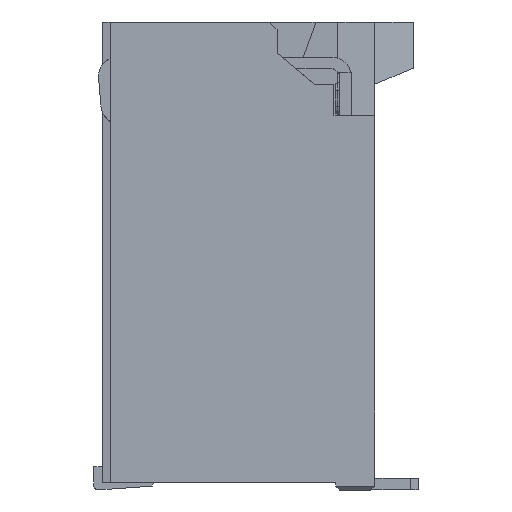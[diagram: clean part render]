
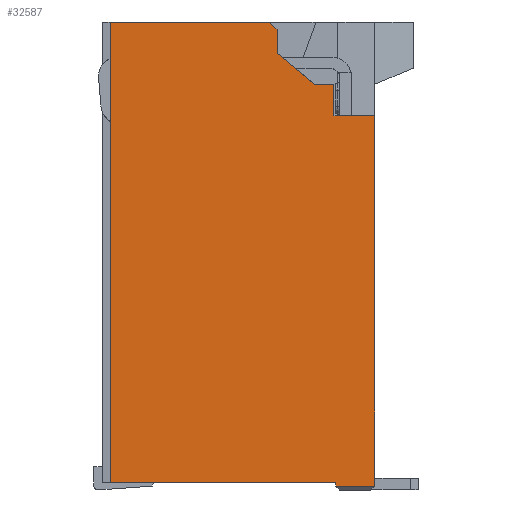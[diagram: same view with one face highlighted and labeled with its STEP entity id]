
A CAD part, front view. The second image highlights one B-rep face of the part: STEP entity #32587.
In plain terms, the highlighted planar face has unit normal (0, -1, 0).
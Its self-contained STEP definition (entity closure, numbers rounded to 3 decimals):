
#184 = ORIENTED_EDGE ( 'NONE', *, *, #6288, .F. ) ;
#232 = VECTOR ( 'NONE', #22023, 1000. ) ;
#341 = LINE ( 'NONE', #2811, #14062 ) ;
#757 = CARTESIAN_POINT ( 'NONE',  ( 3.02, -14.95, 2.35 ) ) ;
#1313 = CARTESIAN_POINT ( 'NONE',  ( 3.54, -14.95, 2.15 ) ) ;
#1408 = DIRECTION ( 'NONE',  ( 0., 0., 1. ) ) ;
#1443 = DIRECTION ( 'NONE',  ( 0., 0., 1. ) ) ;
#1515 = EDGE_CURVE ( 'NONE', #15297, #24669, #19228, .T. ) ;
#1516 = CARTESIAN_POINT ( 'NONE',  ( 0.15, -14.95, 0.4 ) ) ;
#2285 = VERTEX_POINT ( 'NONE', #32026 ) ;
#2577 = DIRECTION ( 'NONE',  ( 0., 1., 0. ) ) ;
#2811 = CARTESIAN_POINT ( 'NONE',  ( 1.595, -14.95, -2.55 ) ) ;
#3234 = EDGE_CURVE ( 'NONE', #7974, #14277, #12568, .T. ) ;
#3261 = CARTESIAN_POINT ( 'NONE',  ( 0.15, -14.95, -2.55 ) ) ;
#3694 = VERTEX_POINT ( 'NONE', #5627 ) ;
#3695 = CARTESIAN_POINT ( 'NONE',  ( 2.24, -14.95, 3.3 ) ) ;
#5627 = CARTESIAN_POINT ( 'NONE',  ( 0.15, -14.95, 3.35 ) ) ;
#5716 = EDGE_CURVE ( 'NONE', #15297, #10564, #13490, .T. ) ;
#5881 = DIRECTION ( 'NONE',  ( 0., 0., -1. ) ) ;
#6256 = VECTOR ( 'NONE', #29498, 1000. ) ;
#6288 = EDGE_CURVE ( 'NONE', #3694, #18091, #6650, .T. ) ;
#6650 = LINE ( 'NONE', #19397, #6256 ) ;
#7730 = CARTESIAN_POINT ( 'NONE',  ( 2.29, -14.95, 3.1 ) ) ;
#7974 = VERTEX_POINT ( 'NONE', #18995 ) ;
#8372 = LINE ( 'NONE', #28574, #32466 ) ;
#8831 = EDGE_CURVE ( 'NONE', #18091, #12149, #13452, .T. ) ;
#9268 = DIRECTION ( 'NONE',  ( -1., 0., 0. ) ) ;
#9305 = VERTEX_POINT ( 'NONE', #22132 ) ;
#10419 = DIRECTION ( 'NONE',  ( 1., 0., 0. ) ) ;
#10509 = EDGE_CURVE ( 'NONE', #2285, #9305, #14239, .T. ) ;
#10564 = VERTEX_POINT ( 'NONE', #24022 ) ;
#10856 = ORIENTED_EDGE ( 'NONE', *, *, #1515, .F. ) ;
#11059 = ORIENTED_EDGE ( 'NONE', *, *, #5716, .T. ) ;
#11364 = CARTESIAN_POINT ( 'NONE',  ( 3.54, -14.95, -0.225 ) ) ;
#12021 = ORIENTED_EDGE ( 'NONE', *, *, #22412, .F. ) ;
#12111 = ORIENTED_EDGE ( 'NONE', *, *, #19896, .T. ) ;
#12149 = VERTEX_POINT ( 'NONE', #16696 ) ;
#12568 = LINE ( 'NONE', #22666, #15328 ) ;
#13202 = ORIENTED_EDGE ( 'NONE', *, *, #28423, .T. ) ;
#13452 = LINE ( 'NONE', #3695, #32297 ) ;
#13490 = LINE ( 'NONE', #757, #19756 ) ;
#13612 = CARTESIAN_POINT ( 'NONE',  ( 3.28, -14.95, 2.15 ) ) ;
#13925 = LINE ( 'NONE', #1516, #17035 ) ;
#14062 = VECTOR ( 'NONE', #10419, 1000. ) ;
#14239 = LINE ( 'NONE', #16727, #16839 ) ;
#14277 = VERTEX_POINT ( 'NONE', #20243 ) ;
#15297 = VERTEX_POINT ( 'NONE', #18146 ) ;
#15328 = VECTOR ( 'NONE', #32771, 1000. ) ;
#15537 = VECTOR ( 'NONE', #5881, 1000. ) ;
#15669 = VERTEX_POINT ( 'NONE', #23357 ) ;
#16677 = ORIENTED_EDGE ( 'NONE', *, *, #10509, .F. ) ;
#16696 = CARTESIAN_POINT ( 'NONE',  ( 2.29, -14.95, 3.25 ) ) ;
#16727 = CARTESIAN_POINT ( 'NONE',  ( 3.29, -14.95, -2.6 ) ) ;
#16839 = VECTOR ( 'NONE', #9268, 1000. ) ;
#17035 = VECTOR ( 'NONE', #19214, 1000. ) ;
#17232 = LINE ( 'NONE', #27154, #232 ) ;
#17638 = CARTESIAN_POINT ( 'NONE',  ( 0., -14.95, 0. ) ) ;
#18091 = VERTEX_POINT ( 'NONE', #28550 ) ;
#18146 = CARTESIAN_POINT ( 'NONE',  ( 3.02, -14.95, 2.15 ) ) ;
#18318 = LINE ( 'NONE', #7730, #15537 ) ;
#18831 = LINE ( 'NONE', #11364, #24531 ) ;
#18927 = ORIENTED_EDGE ( 'NONE', *, *, #30520, .F. ) ;
#18995 = CARTESIAN_POINT ( 'NONE',  ( 2.29, -14.95, 2.95 ) ) ;
#19214 = DIRECTION ( 'NONE',  ( 0., 0., -1. ) ) ;
#19228 = LINE ( 'NONE', #13612, #30719 ) ;
#19397 = CARTESIAN_POINT ( 'NONE',  ( 1.17, -14.95, 3.35 ) ) ;
#19756 = VECTOR ( 'NONE', #1408, 1000. ) ;
#19896 = EDGE_CURVE ( 'NONE', #20294, #15669, #341, .T. ) ;
#20243 = CARTESIAN_POINT ( 'NONE',  ( 2.77, -14.95, 2.55 ) ) ;
#20294 = VERTEX_POINT ( 'NONE', #3261 ) ;
#22023 = DIRECTION ( 'NONE',  ( 0., 0., 1. ) ) ;
#22128 = ORIENTED_EDGE ( 'NONE', *, *, #22492, .F. ) ;
#22132 = CARTESIAN_POINT ( 'NONE',  ( 3.04, -14.95, -2.6 ) ) ;
#22412 = EDGE_CURVE ( 'NONE', #12149, #7974, #18318, .T. ) ;
#22492 = EDGE_CURVE ( 'NONE', #14277, #10564, #8372, .T. ) ;
#22666 = CARTESIAN_POINT ( 'NONE',  ( 2.53, -14.95, 2.75 ) ) ;
#23357 = CARTESIAN_POINT ( 'NONE',  ( 3.04, -14.95, -2.55 ) ) ;
#23714 = DIRECTION ( 'NONE',  ( 1., 0., 0. ) ) ;
#23881 = DIRECTION ( 'NONE',  ( 0.707, 0., -0.707 ) ) ;
#24022 = CARTESIAN_POINT ( 'NONE',  ( 3.02, -14.95, 2.55 ) ) ;
#24531 = VECTOR ( 'NONE', #1443, 1000. ) ;
#24669 = VERTEX_POINT ( 'NONE', #1313 ) ;
#25408 = PLANE ( 'NONE',  #28651 ) ;
#25597 = DIRECTION ( 'NONE',  ( 1., 0., 0. ) ) ;
#25844 = ORIENTED_EDGE ( 'NONE', *, *, #8831, .F. ) ;
#26440 = EDGE_CURVE ( 'NONE', #3694, #20294, #13925, .T. ) ;
#27154 = CARTESIAN_POINT ( 'NONE',  ( 3.04, -14.95, -2.575 ) ) ;
#27579 = DIRECTION ( 'NONE',  ( -1., 0., 0. ) ) ;
#28423 = EDGE_CURVE ( 'NONE', #2285, #24669, #18831, .T. ) ;
#28550 = CARTESIAN_POINT ( 'NONE',  ( 2.19, -14.95, 3.35 ) ) ;
#28574 = CARTESIAN_POINT ( 'NONE',  ( 2.895, -14.95, 2.55 ) ) ;
#28651 = AXIS2_PLACEMENT_3D ( 'NONE', #17638, #2577, #27579 ) ;
#29498 = DIRECTION ( 'NONE',  ( 1., 0., 0. ) ) ;
#29908 = FACE_OUTER_BOUND ( 'NONE', #32401, .T. ) ;
#29978 = ORIENTED_EDGE ( 'NONE', *, *, #26440, .T. ) ;
#30520 = EDGE_CURVE ( 'NONE', #9305, #15669, #17232, .T. ) ;
#30719 = VECTOR ( 'NONE', #23714, 1000. ) ;
#31222 = ORIENTED_EDGE ( 'NONE', *, *, #3234, .F. ) ;
#32026 = CARTESIAN_POINT ( 'NONE',  ( 3.54, -14.95, -2.6 ) ) ;
#32297 = VECTOR ( 'NONE', #23881, 1000. ) ;
#32401 = EDGE_LOOP ( 'NONE', ( #12021, #25844, #184, #29978, #12111, #18927, #16677, #13202, #10856, #11059, #22128, #31222 ) ) ;
#32466 = VECTOR ( 'NONE', #25597, 1000. ) ;
#32587 = ADVANCED_FACE ( 'NONE', ( #29908 ), #25408, .F. ) ;
#32771 = DIRECTION ( 'NONE',  ( 0.768, 0., -0.64 ) ) ;
